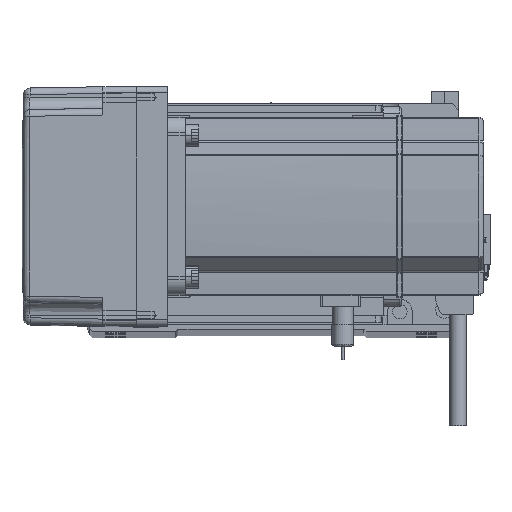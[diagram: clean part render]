
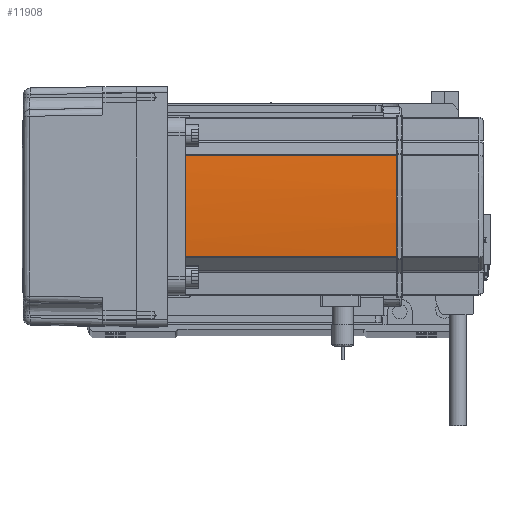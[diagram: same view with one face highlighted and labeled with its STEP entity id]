
A CAD part, top view. The second image highlights one B-rep face of the part: STEP entity #11908.
In plain terms, the highlighted cylindrical face has radius 270 mm (diameter 540 mm), a partial arc.
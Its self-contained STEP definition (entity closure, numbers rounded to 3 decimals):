
#218 = DIRECTION ( 'NONE',  ( 0., 0., -1. ) ) ;
#2458 = EDGE_CURVE ( 'NONE', #37609, #6450, #55660, .T. ) ;
#3036 = VERTEX_POINT ( 'NONE', #42516 ) ;
#3378 = EDGE_CURVE ( 'NONE', #33080, #8686, #58482, .T. ) ;
#4624 = CARTESIAN_POINT ( 'NONE',  ( -230., 0., 58. ) ) ;
#4656 = CARTESIAN_POINT ( 'NONE',  ( 39.042, -22.724, 58. ) ) ;
#5209 = CARTESIAN_POINT ( 'NONE',  ( 40., 0.042, 134. ) ) ;
#5685 = CARTESIAN_POINT ( 'NONE',  ( 40., -0.127, 134. ) ) ;
#5732 = VECTOR ( 'NONE', #46110, 1000. ) ;
#6450 = VERTEX_POINT ( 'NONE', #12100 ) ;
#7749 = CARTESIAN_POINT ( 'NONE',  ( 40., 0.127, 134. ) ) ;
#8686 = VERTEX_POINT ( 'NONE', #7749 ) ;
#10130 = LINE ( 'NONE', #4656, #30513 ) ;
#11908 = ADVANCED_FACE ( 'NONE', ( #60336 ), #54493, .T. ) ;
#12100 = CARTESIAN_POINT ( 'NONE',  ( 39.042, -22.724, 134. ) ) ;
#13052 = AXIS2_PLACEMENT_3D ( 'NONE', #4624, #28045, #27630 ) ;
#13062 = CIRCLE ( 'NONE', #31845, 270. ) ;
#13539 = CARTESIAN_POINT ( 'NONE',  ( 39.042, 22.724, 58. ) ) ;
#14077 = DIRECTION ( 'NONE',  ( -1., 0., 0. ) ) ;
#15672 = EDGE_CURVE ( 'NONE', #6450, #26773, #10130, .T. ) ;
#17165 = DIRECTION ( 'NONE',  ( 0., 0., -1. ) ) ;
#18798 = CARTESIAN_POINT ( 'NONE',  ( 40., -0.127, 134. ) ) ;
#19003 = ORIENTED_EDGE ( 'NONE', *, *, #3378, .T. ) ;
#20376 = AXIS2_PLACEMENT_3D ( 'NONE', #23272, #17165, #37400 ) ;
#21707 = ORIENTED_EDGE ( 'NONE', *, *, #15672, .T. ) ;
#23272 = CARTESIAN_POINT ( 'NONE',  ( -230., 0., 134. ) ) ;
#23739 = ORIENTED_EDGE ( 'NONE', *, *, #42723, .T. ) ;
#24127 = B_SPLINE_CURVE_WITH_KNOTS ( 'NONE', 3,
 ( #18798, #37432, #5209, #51818 ),
 .UNSPECIFIED., .F., .F.,
 ( 4, 4 ),
 ( 0., 1. ),
 .UNSPECIFIED. ) ;
#26773 = VERTEX_POINT ( 'NONE', #44799 ) ;
#27630 = DIRECTION ( 'NONE',  ( -1., 0., 0. ) ) ;
#27919 = CARTESIAN_POINT ( 'NONE',  ( -230., 0., 134. ) ) ;
#28045 = DIRECTION ( 'NONE',  ( 0., 0., -1. ) ) ;
#29323 = EDGE_CURVE ( 'NONE', #37609, #8686, #24127, .T. ) ;
#29332 = DIRECTION ( 'NONE',  ( -1., 0., 0. ) ) ;
#30513 = VECTOR ( 'NONE', #54993, 1000. ) ;
#31349 = ORIENTED_EDGE ( 'NONE', *, *, #29323, .F. ) ;
#31845 = AXIS2_PLACEMENT_3D ( 'NONE', #48254, #38530, #29332 ) ;
#33080 = VERTEX_POINT ( 'NONE', #44272 ) ;
#37400 = DIRECTION ( 'NONE',  ( -1., 0., 0. ) ) ;
#37432 = CARTESIAN_POINT ( 'NONE',  ( 40., -0.042, 134. ) ) ;
#37609 = VERTEX_POINT ( 'NONE', #5685 ) ;
#38530 = DIRECTION ( 'NONE',  ( 0., 0., -1. ) ) ;
#39091 = EDGE_CURVE ( 'NONE', #3036, #26773, #13062, .T. ) ;
#39877 = ORIENTED_EDGE ( 'NONE', *, *, #2458, .T. ) ;
#42516 = CARTESIAN_POINT ( 'NONE',  ( 39.042, 22.724, 39. ) ) ;
#42661 = AXIS2_PLACEMENT_3D ( 'NONE', #27919, #218, #14077 ) ;
#42723 = EDGE_CURVE ( 'NONE', #3036, #33080, #53832, .T. ) ;
#44272 = CARTESIAN_POINT ( 'NONE',  ( 39.042, 22.724, 134. ) ) ;
#44799 = CARTESIAN_POINT ( 'NONE',  ( 39.042, -22.724, 39. ) ) ;
#46110 = DIRECTION ( 'NONE',  ( 0., 0., 1. ) ) ;
#48254 = CARTESIAN_POINT ( 'NONE',  ( -230., 0., 39. ) ) ;
#51818 = CARTESIAN_POINT ( 'NONE',  ( 40., 0.127, 134. ) ) ;
#51874 = ORIENTED_EDGE ( 'NONE', *, *, #39091, .F. ) ;
#53832 = LINE ( 'NONE', #13539, #5732 ) ;
#54493 = CYLINDRICAL_SURFACE ( 'NONE', #13052, 270. ) ;
#54993 = DIRECTION ( 'NONE',  ( 0., 0., -1. ) ) ;
#55660 = CIRCLE ( 'NONE', #42661, 270. ) ;
#56720 = EDGE_LOOP ( 'NONE', ( #21707, #51874, #23739, #19003, #31349, #39877 ) ) ;
#58482 = CIRCLE ( 'NONE', #20376, 270. ) ;
#60336 = FACE_OUTER_BOUND ( 'NONE', #56720, .T. ) ;
